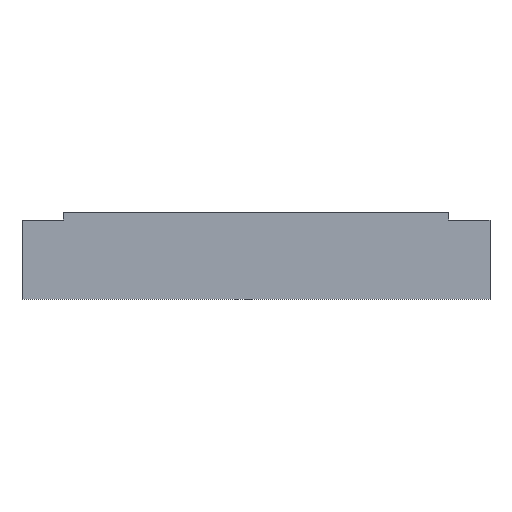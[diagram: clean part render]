
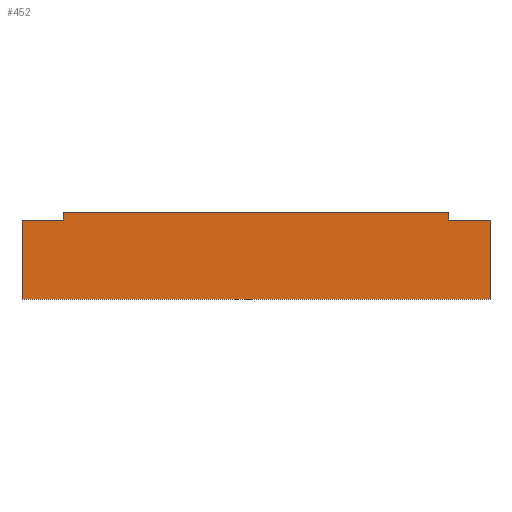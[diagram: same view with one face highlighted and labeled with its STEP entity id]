
A CAD part, left-side view. The second image highlights one B-rep face of the part: STEP entity #452.
In plain terms, the highlighted planar face has unit normal (-1, 0, 0).
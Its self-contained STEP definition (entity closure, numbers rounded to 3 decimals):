
#17 = ORIENTED_EDGE ( 'NONE', *, *, #3411, .F. ) ;
#31 = DIRECTION ( 'NONE',  ( 0., -1., 0. ) ) ;
#44 = VECTOR ( 'NONE', #31, 1000. ) ;
#45 = CARTESIAN_POINT ( 'NONE',  ( -48., 62.5, 0. ) ) ;
#130 = ORIENTED_EDGE ( 'NONE', *, *, #840, .F. ) ;
#204 = DIRECTION ( 'NONE',  ( 1., 0., 0. ) ) ;
#244 = VECTOR ( 'NONE', #3679, 1000. ) ;
#281 = EDGE_CURVE ( 'NONE', #694, #3376, #1245, .T. ) ;
#304 = CARTESIAN_POINT ( 'NONE',  ( -48., -62.5, 21.2 ) ) ;
#315 = LINE ( 'NONE', #45, #44 ) ;
#323 = EDGE_CURVE ( 'NONE', #504, #2900, #1750, .T. ) ;
#452 = ADVANCED_FACE ( 'NONE', ( #2015 ), #3492, .F. ) ;
#504 = VERTEX_POINT ( 'NONE', #997 ) ;
#671 = EDGE_CURVE ( 'NONE', #504, #1192, #2104, .T. ) ;
#694 = VERTEX_POINT ( 'NONE', #1625 ) ;
#735 = DIRECTION ( 'NONE',  ( 0., 1., 0. ) ) ;
#755 = CARTESIAN_POINT ( 'NONE',  ( -48., -51.5, 23.2 ) ) ;
#840 = EDGE_CURVE ( 'NONE', #1088, #2934, #3326, .T. ) ;
#903 = VECTOR ( 'NONE', #2430, 1000. ) ;
#924 = ORIENTED_EDGE ( 'NONE', *, *, #671, .F. ) ;
#980 = DIRECTION ( 'NONE',  ( 0., 0., -1. ) ) ;
#997 = CARTESIAN_POINT ( 'NONE',  ( -48., 51.5, 23.2 ) ) ;
#1088 = VERTEX_POINT ( 'NONE', #3251 ) ;
#1192 = VERTEX_POINT ( 'NONE', #755 ) ;
#1245 = LINE ( 'NONE', #2989, #2653 ) ;
#1271 = CARTESIAN_POINT ( 'NONE',  ( -48., 62.5, 0. ) ) ;
#1451 = ORIENTED_EDGE ( 'NONE', *, *, #3622, .F. ) ;
#1520 = CARTESIAN_POINT ( 'NONE',  ( -48., -62.5, 0. ) ) ;
#1625 = CARTESIAN_POINT ( 'NONE',  ( -48., 62.5, 21.2 ) ) ;
#1682 = DIRECTION ( 'NONE',  ( 0., -1., 0. ) ) ;
#1750 = LINE ( 'NONE', #3278, #3104 ) ;
#1844 = DIRECTION ( 'NONE',  ( 0., 0., -1. ) ) ;
#1980 = DIRECTION ( 'NONE',  ( 0., -1., 0. ) ) ;
#2015 = FACE_OUTER_BOUND ( 'NONE', #2443, .T. ) ;
#2104 = LINE ( 'NONE', #2229, #244 ) ;
#2229 = CARTESIAN_POINT ( 'NONE',  ( -48., 51.5, 23.2 ) ) ;
#2296 = AXIS2_PLACEMENT_3D ( 'NONE', #2520, #204, #735 ) ;
#2303 = CARTESIAN_POINT ( 'NONE',  ( -48., 62.5, 21.2 ) ) ;
#2305 = CARTESIAN_POINT ( 'NONE',  ( -48., 62.5, 21.2 ) ) ;
#2400 = LINE ( 'NONE', #2758, #903 ) ;
#2430 = DIRECTION ( 'NONE',  ( 0., 0., -1. ) ) ;
#2443 = EDGE_LOOP ( 'NONE', ( #3695, #3413, #130, #17, #924, #2559, #1451, #3404 ) ) ;
#2477 = CARTESIAN_POINT ( 'NONE',  ( -48., -62.5, 21.2 ) ) ;
#2520 = CARTESIAN_POINT ( 'NONE',  ( -48., 62.5, 21.2 ) ) ;
#2559 = ORIENTED_EDGE ( 'NONE', *, *, #323, .T. ) ;
#2601 = VECTOR ( 'NONE', #2640, 1000. ) ;
#2640 = DIRECTION ( 'NONE',  ( 0., 0., -1. ) ) ;
#2653 = VECTOR ( 'NONE', #980, 1000. ) ;
#2712 = EDGE_CURVE ( 'NONE', #2934, #2870, #3131, .T. ) ;
#2758 = CARTESIAN_POINT ( 'NONE',  ( -48., -51.5, 23.2 ) ) ;
#2870 = VERTEX_POINT ( 'NONE', #1520 ) ;
#2900 = VERTEX_POINT ( 'NONE', #3388 ) ;
#2934 = VERTEX_POINT ( 'NONE', #2477 ) ;
#2955 = VECTOR ( 'NONE', #1682, 1000. ) ;
#2989 = CARTESIAN_POINT ( 'NONE',  ( -48., 62.5, 21.2 ) ) ;
#3069 = VECTOR ( 'NONE', #1980, 1000. ) ;
#3104 = VECTOR ( 'NONE', #1844, 1000. ) ;
#3131 = LINE ( 'NONE', #304, #2601 ) ;
#3170 = EDGE_CURVE ( 'NONE', #3376, #2870, #315, .T. ) ;
#3251 = CARTESIAN_POINT ( 'NONE',  ( -48., -51.5, 21.2 ) ) ;
#3278 = CARTESIAN_POINT ( 'NONE',  ( -48., 51.5, 23.2 ) ) ;
#3326 = LINE ( 'NONE', #2305, #2955 ) ;
#3376 = VERTEX_POINT ( 'NONE', #1271 ) ;
#3388 = CARTESIAN_POINT ( 'NONE',  ( -48., 51.5, 21.2 ) ) ;
#3404 = ORIENTED_EDGE ( 'NONE', *, *, #281, .T. ) ;
#3411 = EDGE_CURVE ( 'NONE', #1192, #1088, #2400, .T. ) ;
#3413 = ORIENTED_EDGE ( 'NONE', *, *, #2712, .F. ) ;
#3492 = PLANE ( 'NONE',  #2296 ) ;
#3622 = EDGE_CURVE ( 'NONE', #694, #2900, #3674, .T. ) ;
#3674 = LINE ( 'NONE', #2303, #3069 ) ;
#3679 = DIRECTION ( 'NONE',  ( 0., -1., 0. ) ) ;
#3695 = ORIENTED_EDGE ( 'NONE', *, *, #3170, .T. ) ;
